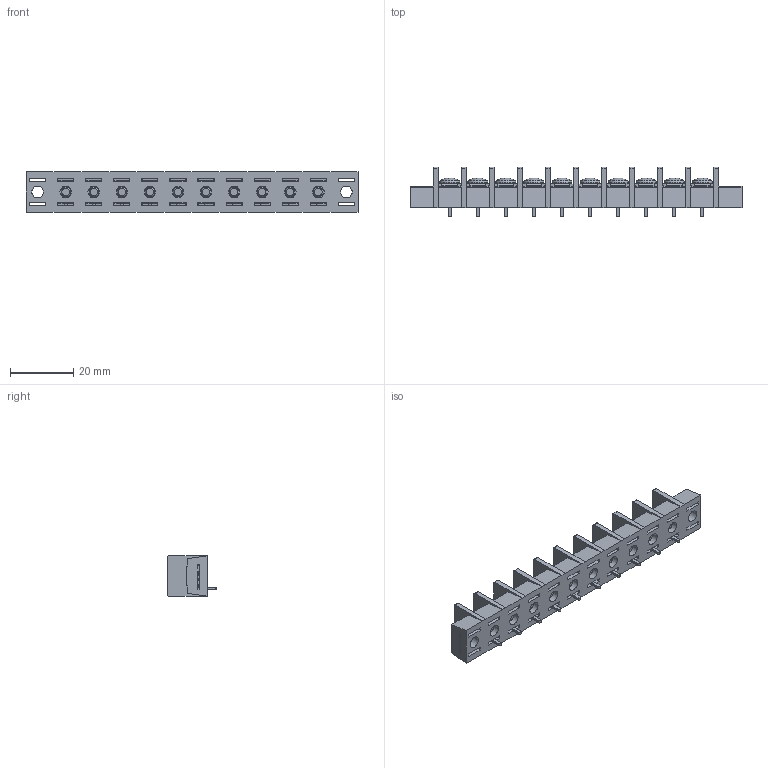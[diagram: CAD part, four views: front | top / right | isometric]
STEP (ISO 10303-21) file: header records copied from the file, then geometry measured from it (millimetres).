
FILE_DESCRIPTION(/* description */ ('Alibre Inc.'),/* implementation_level */ '2;1');
FILE_NAME(/* name */ 'export0',/* time_stamp */ '2015-10-20T19:54:50+09:00',/* author */ (''),/* organization */ (''),/* preprocessor_version */ 'ST-DEVELOPER v14',/* originating_system */ 'Alibre',/* authorisation */ '');
FILE_SCHEMA (('CONFIG_CONTROL_DESIGN'));
Length unit declared in the file: centimetre
Products named in the file (1): ID_1
Bounding box: 105.19 x 15.8 x 12.8 mm (x, y, z)
Volume: 9229.8 mm3; surface area: 11383.2 mm2
Topology: 1 solids, 171 shells, 3222 faces, 8272 edges, 5474 vertices
Faces by surface type: plane 2412, bspline 624, cylinder 106, cone 50, torus 20, sphere 10
Full cylindrical faces by diameter (mm): 3 x20, 3.7 x12, 4.6 x12, 6.3 x10
Entity records: 93113 total; most frequent: CARTESIAN_POINT 22477, ORIENTED_EDGE 16312, DIRECTION 9786, EDGE_CURVE 8156, VECTOR 6284, LINE 6284, VERTEX_POINT 5442, EDGE_LOOP 3540
